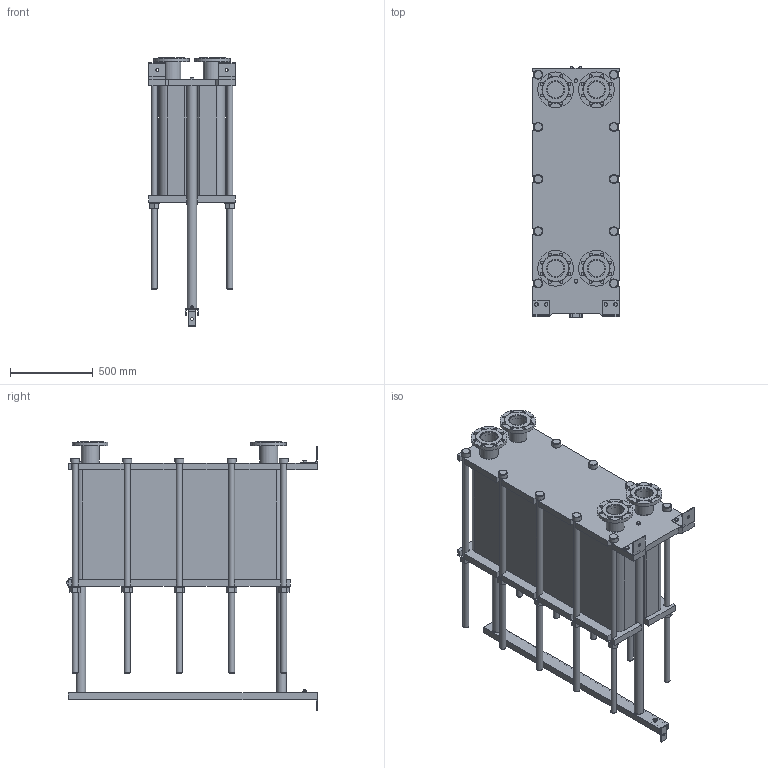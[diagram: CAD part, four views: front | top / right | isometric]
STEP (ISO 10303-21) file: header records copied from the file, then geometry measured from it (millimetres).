
FILE_DESCRIPTION(/* description */ (''),/* implementation_level */ '2;1');
FILE_NAME(/* name */ 'C:\Users\zhuro\Desktop\ENCO\TO\ЭН-04\ЭН-0,5-04-192-1.stp',/* time_stamp */ '2022-06-06T11:01:40+03:00',/* author */ ('zhuro'),/* organization */ (''),/* preprocessor_version */ 'ST-DEVELOPER v18.1',/* originating_system */ 'Autodesk Inventor 2022',/* authorisation */ '');
FILE_SCHEMA (('AUTOMOTIVE_DESIGN { 1 0 10303 214 3 1 1 }'));
Length unit declared in the file: millimetre
Products named in the file (1): ЭН-0,5-04-192-1
Bounding box: 520 x 1510 x 1621 mm (x, y, z)
Volume: 407196774.9 mm3; surface area: 10378350.6 mm2
Topology: 45 solids, 45 shells, 668 faces, 1611 edges, 1048 vertices
Faces by surface type: plane 457, cylinder 166, cone 39, torus 6
Full cylindrical faces by diameter (mm): 8 x4, 10 x2, 16 x8, 18 x35, 36 x25, 40 x2, 42 x1, 45 x4, 54 x10, 57 x2, 60 x10, 68 x2, 100 x4, 110 x8, 215 x4
Entity records: 23607 total; most frequent: CARTESIAN_POINT 7348, DIRECTION 3371, ORIENTED_EDGE 3142, EDGE_CURVE 1571, AXIS2_PLACEMENT_3D 1199, VERTEX_POINT 1044, LINE 973, VECTOR 973
